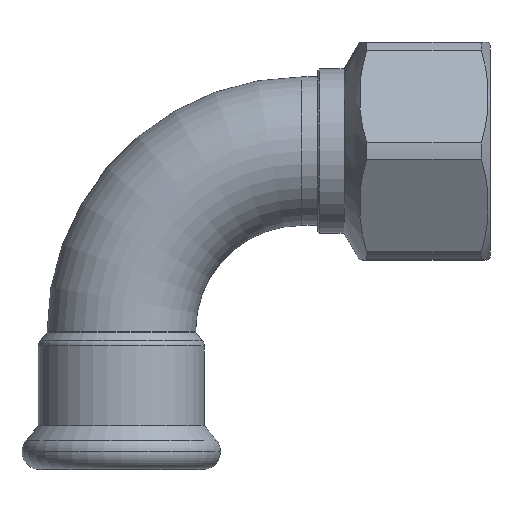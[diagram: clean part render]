
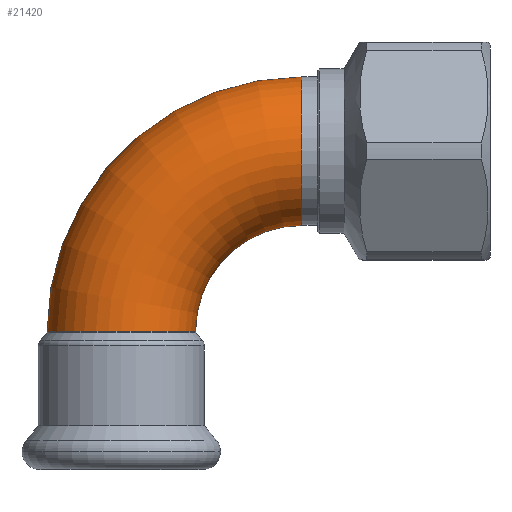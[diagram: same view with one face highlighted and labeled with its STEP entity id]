
A CAD part, top view. The second image highlights one B-rep face of the part: STEP entity #21420.
In plain terms, the highlighted toroidal (fillet/blend) face has major radius 34 mm and minor radius 14 mm.
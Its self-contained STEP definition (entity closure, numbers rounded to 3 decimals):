
#17560=CARTESIAN_POINT('',(-91.071,-305.306,
0.));
#17570=VERTEX_POINT('',#17560);
#17650=CARTESIAN_POINT('',(-91.071,-333.306,
0.));
#17660=VERTEX_POINT('',#17650);
#17880=CARTESIAN_POINT('',(-111.071,-353.306,
0.));
#17890=VERTEX_POINT('',#17880);
#17920=CARTESIAN_POINT('',(-125.071,-353.306,
0.));
#17930=DIRECTION('',(0.,-1.,0.));
#17940=DIRECTION('',(1.,0.,0.));
#17950=AXIS2_PLACEMENT_3D('',#17920,#17930,#17940);
#17960=CIRCLE('',#17950,14.);
#17970=CARTESIAN_POINT('',(-139.071,-353.306,
0.));
#17980=VERTEX_POINT('',#17970);
#18110=CARTESIAN_POINT('',(-91.071,-353.306,
0.));
#18120=DIRECTION('',(0.,0.,1.));
#18130=DIRECTION('',(0.,1.,0.));
#18140=AXIS2_PLACEMENT_3D('',#18110,#18120,#18130);
#18150=TOROIDAL_SURFACE('',#18140,34.,14.);
#18160=CARTESIAN_POINT('',(-91.071,-353.306,
0.));
#18170=DIRECTION('',(0.,0.,1.));
#18180=DIRECTION('',(0.,1.,0.));
#18190=AXIS2_PLACEMENT_3D('',#18160,#18170,#18180);
#18200=CIRCLE('',#18190,20.);
#18210=EDGE_CURVE('',#17660,#17890,#18200,.T.);
#18240=CARTESIAN_POINT('',(-91.071,-353.306,
0.));
#18250=DIRECTION('',(0.,0.,1.));
#18260=DIRECTION('',(0.,1.,0.));
#18270=AXIS2_PLACEMENT_3D('',#18240,#18250,#18260);
#18280=CIRCLE('',#18270,48.);
#18290=EDGE_CURVE('',#17570,#17980,#18280,.T.);
#21290=EDGE_CURVE('',#17890,#17980,#17960,.T.);
#21300=ORIENTED_EDGE('',*,*,#21290,.F.);
#21310=ORIENTED_EDGE('',*,*,#18290,.T.);
#21320=CARTESIAN_POINT('',(-91.071,-319.306,
0.));
#21330=DIRECTION('',(-1.,0.,0.));
#21340=DIRECTION('',(0.,-1.,0.));
#21350=AXIS2_PLACEMENT_3D('',#21320,#21330,#21340);
#21360=CIRCLE('',#21350,14.);
#21370=EDGE_CURVE('',#17660,#17570,#21360,.T.);
#21380=ORIENTED_EDGE('',*,*,#21370,.T.);
#21390=ORIENTED_EDGE('',*,*,#18210,.F.);
#21400=EDGE_LOOP('',(#21390,#21380,#21310,#21300));
#21410=FACE_OUTER_BOUND('',#21400,.T.);
#21420=ADVANCED_FACE('',(#21410),#18150,.T.);
